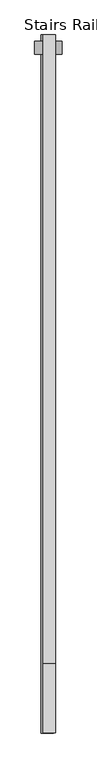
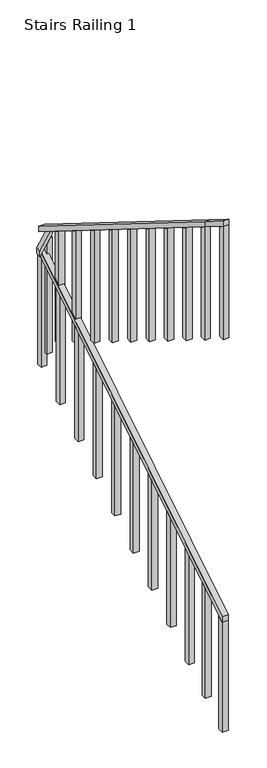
"""IFC4 building model written with IfcOpenShell, lengths in millimetres: railing geometry, Stairs Railing 1."""

from ifc_helpers import new_model, si_unit, frame, origin, place, context, project, spatial, polyline, outline, extrude, source, transform, mapped, element, save


def stairs_railing_1_e688fe42(model_context):
    return source(origin(), model_context, "Body", "SweptSolid", [
        extrude(outline(polyline([(13993.1758882, 2982.6857143), (13993.1758882, 2931.8857143), (11199.1758882, 1190.1714286), (11199.1758882, 1240.9714286), (13993.1758882, 2982.6857143)])), frame((2466.3543833, 0.0, 0.0), z_axis=(1.0, 0.0, 0.0), x_axis=(0.0, 1.0, 0.0)), (0.0, 0.0, 1.0), 50.8),
        extrude(outline(polyline([(11249.9758882, 1221.838961), (11249.9758882, 174.1714286), (11199.1758882, 174.1714286), (11199.1758882, 1190.1714286), (11249.9758882, 1221.838961)])), frame((2466.3543833, 0.0, 0.0), z_axis=(1.0, 0.0, 0.0), x_axis=(0.0, 1.0, 0.0)), (0.0, 0.0, 1.0), 50.8),
        extrude(outline(polyline([(11503.9758882, 1380.1766234), (11503.9758882, 332.5090909), (11453.1758882, 332.5090909), (11453.1758882, 1348.5090909), (11503.9758882, 1380.1766234)])), frame((2466.3543833, 0.0, 0.0), z_axis=(1.0, 0.0, 0.0), x_axis=(0.0, 1.0, 0.0)), (0.0, 0.0, 1.0), 50.8),
        extrude(outline(polyline([(11757.9758882, 1538.5142857), (11757.9758882, 490.8467532), (11707.1758882, 490.8467532), (11707.1758882, 1506.8467532), (11757.9758882, 1538.5142857)])), frame((2466.3543833, 0.0, 0.0), z_axis=(1.0, 0.0, 0.0), x_axis=(0.0, 1.0, 0.0)), (0.0, 0.0, 1.0), 50.8),
        extrude(outline(polyline([(12037.3758882, 1712.6857143), (12037.3758882, 665.0181818), (11986.5758882, 665.0181818), (11986.5758882, 1681.0181818), (12037.3758882, 1712.6857143)])), frame((2466.3543833, 0.0, 0.0), z_axis=(1.0, 0.0, 0.0), x_axis=(0.0, 1.0, 0.0)), (0.0, 0.0, 1.0), 50.8),
        extrude(outline(polyline([(12316.7758882, 1886.8571429), (12316.7758882, 839.1896104), (12265.9758882, 839.1896104), (12265.9758882, 1855.1896104), (12316.7758882, 1886.8571429)])), frame((2466.3543833, 0.0, 0.0), z_axis=(1.0, 0.0, 0.0), x_axis=(0.0, 1.0, 0.0)), (0.0, 0.0, 1.0), 50.8),
        extrude(outline(polyline([(12596.1758882, 2061.0285714), (12596.1758882, 1013.361039), (12545.3758882, 1013.361039), (12545.3758882, 2029.361039), (12596.1758882, 2061.0285714)])), frame((2466.3543833, 0.0, 0.0), z_axis=(1.0, 0.0, 0.0), x_axis=(0.0, 1.0, 0.0)), (0.0, 0.0, 1.0), 50.8),
        extrude(outline(polyline([(12875.5758882, 2235.2), (12875.5758882, 1187.5324675), (12824.7758882, 1187.5324675), (12824.7758882, 2203.5324675), (12875.5758882, 2235.2)])), frame((2466.3543833, 0.0, 0.0), z_axis=(1.0, 0.0, 0.0), x_axis=(0.0, 1.0, 0.0)), (0.0, 0.0, 1.0), 50.8),
        extrude(outline(polyline([(13154.9758882, 2409.3714286), (13154.9758882, 1361.7038961), (13104.1758882, 1361.7038961), (13104.1758882, 2377.7038961), (13154.9758882, 2409.3714286)])), frame((2466.3543833, 0.0, 0.0), z_axis=(1.0, 0.0, 0.0), x_axis=(0.0, 1.0, 0.0)), (0.0, 0.0, 1.0), 50.8),
        extrude(outline(polyline([(13434.3758882, 2583.5428571), (13434.3758882, 1535.8753247), (13383.5758882, 1535.8753247), (13383.5758882, 2551.8753247), (13434.3758882, 2583.5428571)])), frame((2466.3543833, 0.0, 0.0), z_axis=(1.0, 0.0, 0.0), x_axis=(0.0, 1.0, 0.0)), (0.0, 0.0, 1.0), 50.8),
        extrude(outline(polyline([(13713.7758882, 2757.7142857), (13713.7758882, 1710.0467532), (13662.9758882, 1710.0467532), (13662.9758882, 2726.0467532), (13713.7758882, 2757.7142857)])), frame((2466.3543833, 0.0, 0.0), z_axis=(1.0, 0.0, 0.0), x_axis=(0.0, 1.0, 0.0)), (0.0, 0.0, 1.0), 50.8),
        extrude(outline(polyline([(13993.1758882, 2931.8857143), (13993.1758882, 1884.2181818), (13942.3758882, 1884.2181818), (13942.3758882, 2900.2181818), (13993.1758882, 2931.8857143)])), frame((2466.3543833, 0.0, 0.0), z_axis=(1.0, 0.0, 0.0), x_axis=(0.0, 1.0, 0.0)), (0.0, 0.0, 1.0), 50.8),
        extrude(outline(polyline([(3106.0571429, 2550.556482), (3156.8571429, 2550.556482), (2982.6857143, 2440.9543833), (2931.8857143, 2440.9543833), (3106.0571429, 2550.556482)])), frame((0.0, 13916.9758882, 0.0), z_axis=(0.0, 1.0, 0.0), x_axis=(0.0, 0.0, 1.0)), (0.0, 0.0, 1.0), 50.8),
        extrude(outline(polyline([(3076.1295959, 2550.556482), (3076.1295959, 2531.7237608), (3025.3295959, 2499.756482), (2009.3295959, 2499.756482), (2009.3295959, 2550.556482), (3076.1295959, 2550.556482)])), frame((0.0, 13916.9758882, 0.0), z_axis=(0.0, 1.0, 0.0), x_axis=(0.0, 0.0, 1.0)), (0.0, 0.0, 1.0), 50.8),
        extrude(outline(polyline([(11478.5758882, 4673.6), (11478.5758882, 4724.4), (13993.1758882, 3156.8571429), (13993.1758882, 3106.0571429), (11478.5758882, 4673.6)])), frame((2474.356482, 0.0, 0.0), z_axis=(1.0, 0.0, 0.0), x_axis=(0.0, 1.0, 0.0)), (0.0, 0.0, 1.0), 50.8),
        extrude(outline(polyline([(13739.1758882, 3264.3948052), (13739.1758882, 2248.3948052), (13688.3758882, 2248.3948052), (13688.3758882, 3296.0623377), (13739.1758882, 3264.3948052)])), frame((2474.356482, 0.0, 0.0), z_axis=(1.0, 0.0, 0.0), x_axis=(0.0, 1.0, 0.0)), (0.0, 0.0, 1.0), 50.8),
        extrude(outline(polyline([(13485.1758882, 3422.7324675), (13485.1758882, 2406.7324675), (13434.3758882, 2406.7324675), (13434.3758882, 3454.4), (13485.1758882, 3422.7324675)])), frame((2474.356482, 0.0, 0.0), z_axis=(1.0, 0.0, 0.0), x_axis=(0.0, 1.0, 0.0)), (0.0, 0.0, 1.0), 50.8),
        extrude(outline(polyline([(13205.7758882, 3596.9038961), (13205.7758882, 2580.9038961), (13154.9758882, 2580.9038961), (13154.9758882, 3628.5714286), (13205.7758882, 3596.9038961)])), frame((2474.356482, 0.0, 0.0), z_axis=(1.0, 0.0, 0.0), x_axis=(0.0, 1.0, 0.0)), (0.0, 0.0, 1.0), 50.8),
        extrude(outline(polyline([(12926.3758882, 3771.0753247), (12926.3758882, 2755.0753247), (12875.5758882, 2755.0753247), (12875.5758882, 3802.7428571), (12926.3758882, 3771.0753247)])), frame((2474.356482, 0.0, 0.0), z_axis=(1.0, 0.0, 0.0), x_axis=(0.0, 1.0, 0.0)), (0.0, 0.0, 1.0), 50.8),
        extrude(outline(polyline([(12646.9758882, 3945.2467532), (12646.9758882, 2929.2467532), (12596.1758882, 2929.2467532), (12596.1758882, 3976.9142857), (12646.9758882, 3945.2467532)])), frame((2474.356482, 0.0, 0.0), z_axis=(1.0, 0.0, 0.0), x_axis=(0.0, 1.0, 0.0)), (0.0, 0.0, 1.0), 50.8),
        extrude(outline(polyline([(12367.5758882, 4119.4181818), (12367.5758882, 3103.4181818), (12316.7758882, 3103.4181818), (12316.7758882, 4151.0857143), (12367.5758882, 4119.4181818)])), frame((2474.356482, 0.0, 0.0), z_axis=(1.0, 0.0, 0.0), x_axis=(0.0, 1.0, 0.0)), (0.0, 0.0, 1.0), 50.8),
        extrude(outline(polyline([(12088.1758882, 4293.5896104), (12088.1758882, 3277.5896104), (12037.3758882, 3277.5896104), (12037.3758882, 4325.2571429), (12088.1758882, 4293.5896104)])), frame((2474.356482, 0.0, 0.0), z_axis=(1.0, 0.0, 0.0), x_axis=(0.0, 1.0, 0.0)), (0.0, 0.0, 1.0), 50.8),
        extrude(outline(polyline([(11808.7758882, 4467.761039), (11808.7758882, 3451.761039), (11757.9758882, 3451.761039), (11757.9758882, 4499.4285714), (11808.7758882, 4467.761039)])), frame((2474.356482, 0.0, 0.0), z_axis=(1.0, 0.0, 0.0), x_axis=(0.0, 1.0, 0.0)), (0.0, 0.0, 1.0), 50.8),
        extrude(outline(polyline([(11529.3758882, 4641.9324675), (11529.3758882, 3625.9324675), (11478.5758882, 3625.9324675), (11478.5758882, 4673.6), (11529.3758882, 4641.9324675)])), frame((2474.356482, 0.0, 0.0), z_axis=(1.0, 0.0, 0.0), x_axis=(0.0, 1.0, 0.0)), (0.0, 0.0, 1.0), 50.8),
        extrude(outline(polyline([(11199.1758882, 4847.7714286), (11199.1758882, 4898.5714286), (11478.5758882, 4724.4), (11478.5758882, 4673.6), (11199.1758882, 4847.7714286)])), frame((2474.356482, 0.0, 0.0), z_axis=(1.0, 0.0, 0.0), x_axis=(0.0, 1.0, 0.0)), (0.0, 0.0, 1.0), 50.8),
        extrude(outline(polyline([(11249.9758882, 4816.1038961), (11249.9758882, 3800.1038961), (11199.1758882, 3800.1038961), (11199.1758882, 4847.7714286), (11249.9758882, 4816.1038961)])), frame((2474.356482, 0.0, 0.0), z_axis=(1.0, 0.0, 0.0), x_axis=(0.0, 1.0, 0.0)), (0.0, 0.0, 1.0), 50.8),
    ])


if __name__ == "__main__":
    model = new_model("IFC4")
    model_context = context("Model", 3, world=origin())
    ifc_project = project(units=[si_unit("LENGTHUNIT", "METRE", prefix="MILLI")], contexts=[model_context])
    site = spatial("IfcSite", under=ifc_project)
    building = spatial("IfcBuilding", under=site)
    placement = place(None, origin())
    stairs_railing_1_shape = stairs_railing_1_e688fe42(model_context)
    element("IfcRailing", 1, ObjectType="Stairs Railing 1", at=placement, inside=building, context=model_context, shape_type="MappedRepresentation", body=[
        mapped(stairs_railing_1_shape, transform((0.0, 0.0, 0.0), x_axis=(1.0, 0.0, 0.0), y_axis=(0.0, 1.0, 0.0), z_axis=(0.0, 0.0, 1.0))),
    ])
    save(model, "model.ifc")
